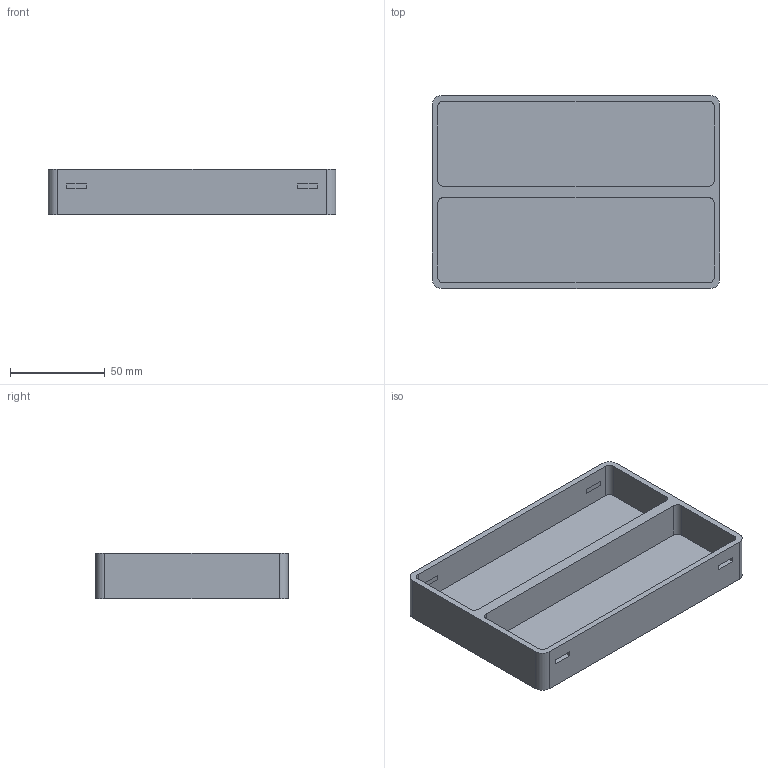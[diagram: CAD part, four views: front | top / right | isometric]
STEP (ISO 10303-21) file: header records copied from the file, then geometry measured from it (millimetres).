
FILE_DESCRIPTION(('Open CASCADE Model'),'2;1');
FILE_NAME('Open CASCADE Shape Model','2026-11-03T16:15:23',('Author'),( 'Open CASCADE'),'Open CASCADE STEP processor 8.0','build123d', 'Unknown');
FILE_SCHEMA(('AUTOMOTIVE_DESIGN { 1 0 10303 214 1 1 1 1 }'));
Length unit declared in the file: millimetre
Products named in the file (1): SOLID
Bounding box: 152 x 102 x 24 mm (x, y, z)
Volume: 121854.2 mm3; surface area: 57617.2 mm2
Topology: 1 solids, 1 shells, 48 faces, 120 edges, 80 vertices
Faces by surface type: plane 36, cylinder 12
Entity records: 3022 total; most frequent: CARTESIAN_POINT 681, DIRECTION 410, LINE 264, VECTOR 264, ORIENTED_EDGE 240, PCURVE 240, DEFINITIONAL_REPRESENTATION 240, EDGE_CURVE 120
